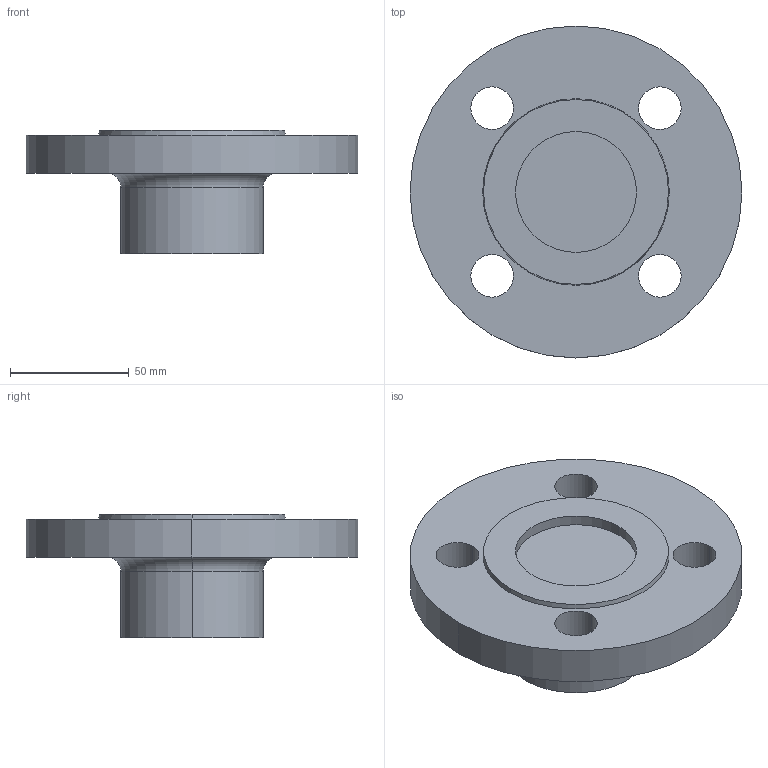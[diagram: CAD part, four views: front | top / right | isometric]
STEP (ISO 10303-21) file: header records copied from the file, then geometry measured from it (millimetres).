
FILE_DESCRIPTION (( 'STEP AP214' ), '1' );
FILE_NAME ('PN40 DN32 Type 21(i) - Type G Face.STEP', '2018-12-29T23:47:10', ( '' ), ( '' ), 'SwSTEP 2.0', 'SolidWorks 2019', '' );
FILE_SCHEMA (( 'AUTOMOTIVE_DESIGN' ));
Length unit declared in the file: millimetre
Products named in the file (1): PN40 DN32 Type 21(i) - Type G Face
Bounding box: 140 x 140 x 52 mm (x, y, z)
Volume: 328119.6 mm3; surface area: 46481.7 mm2
Topology: 1 solids, 1 shells, 23 faces, 52 edges, 34 vertices
Faces by surface type: cylinder 14, plane 5, torus 2, cone 2
Entity records: 716 total; most frequent: DIRECTION 136, CARTESIAN_POINT 110, ORIENTED_EDGE 104, AXIS2_PLACEMENT_3D 60, EDGE_CURVE 52, CIRCLE 36, EDGE_LOOP 34, VERTEX_POINT 34
